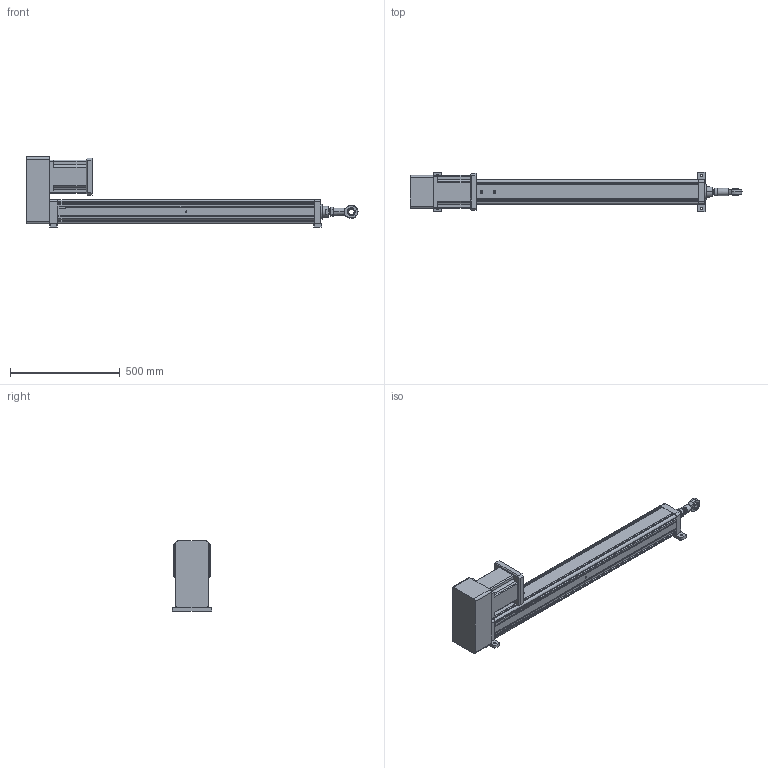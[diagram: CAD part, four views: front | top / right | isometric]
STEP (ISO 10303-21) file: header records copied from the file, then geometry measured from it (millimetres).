
FILE_DESCRIPTION (( 'STEP AP203' ), '1' );
FILE_NAME ('YRJ110-L1000-H2K3.STEP', '2020-01-04T06:13:58', ( 'User' ), ( 'China' ), 'SwSTEP 2.0', 'SolidWorks 2016', '' );
FILE_SCHEMA (( 'CONFIG_CONTROL_DESIGN' ));
Length unit declared in the file: millimetre
Products named in the file (11): YRJ110-L1000-H2K3; 142熬厒儂; H2-110-1; H2-110-2; K1-110; _BNC01-SI25T_K-R-001; _BNC01-SI25T_K-R-002; BNC01-SI25T_K-R; 095-100俴最倰第; K3-110; 萇儂碟-110
Assembly tree (10 placements, depth 4):
  YRJ110-L1000-H2K3
    095-100俴最倰第
    萇儂碟-110
    142熬厒儂
    H2-110-1
    H2-110-2
    K3-110
      K1-110
      BNC01-SI25T_K-R
        _BNC01-SI25T_K-R-001
        _BNC01-SI25T_K-R-002
Bounding box: 1515 x 180 x 320 mm (x, y, z)
Volume: 14858666.2 mm3; surface area: 1544280 mm2
Topology: 8 solids, 8 shells, 410 faces, 1133 edges, 729 vertices
Faces by surface type: plane 196, cylinder 166, cone 34, bspline 14
Entity records: 23179 total; most frequent: CARTESIAN_POINT 11776, ORIENTED_EDGE 2210, DIRECTION 2050, EDGE_CURVE 1105, VERTEX_POINT 729, LINE 684, VECTOR 684, AXIS2_PLACEMENT_3D 683
